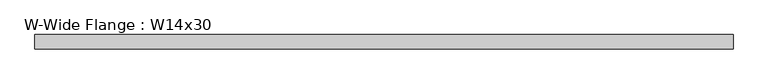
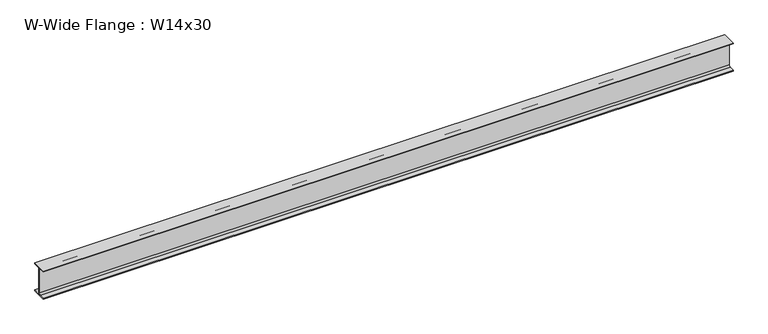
"""IFC4 building model written with IfcOpenShell, lengths in millimetres: beam geometry, W-Wide Flange : W14x30."""

from ifc_helpers import new_model, si_unit, point, frame, frame_2d, origin, place, context, project, spatial, polyline, circle_curve, trimmed, segment, composite_curve, outline, extrude, source, transform, mapped, element, save


def w_wide_flange_w14x30_946aa045(model_context):
    return source(origin(), model_context, "Body", "SweptSolid", [
        extrude(outline(composite_curve([segment(polyline([(85.471, -165.481), (85.471, -175.26), (-85.471, -175.26), (-85.471, -165.481), (-22.225, -165.481)]), True, "CONTINUOUS"), segment(trimmed(circle_curve(frame_2d((-22.225, -146.685)), 18.796), [point((-22.225, -165.481))], [point((-3.429, -146.685))], True, "CARTESIAN"), True, "CONTINUOUS"), segment(polyline([(-3.429, -146.685), (-3.429, 146.685)]), True, "CONTINUOUS"), segment(trimmed(circle_curve(frame_2d((-22.225, 146.685)), 18.796), [point((-3.429, 146.685))], [point((-22.225, 165.481))], True, "CARTESIAN"), True, "CONTINUOUS"), segment(polyline([(-22.225, 165.481), (-85.471, 165.481), (-85.471, 175.26), (85.471, 175.26), (85.471, 165.481), (22.225, 165.481)]), True, "CONTINUOUS"), segment(trimmed(circle_curve(frame_2d((22.225, 146.685)), 18.796), [point((22.225, 165.481))], [point((3.429, 146.685))], True, "CARTESIAN"), True, "CONTINUOUS"), segment(polyline([(3.429, 146.685), (3.429, -146.685)]), True, "CONTINUOUS"), segment(trimmed(circle_curve(frame_2d((22.225, -146.685)), 18.796), [point((3.429, -146.685))], [point((22.225, -165.481))], True, "CARTESIAN"), True, "CONTINUOUS"), segment(polyline([(22.225, -165.481), (85.471, -165.481)]), True, "CONTINUOUS")], self_intersect=False)), frame((-4148.455, 0.0, 0.0), z_axis=(1.0, 0.0, 0.0), x_axis=(0.0, 1.0, 0.0)), (0.0, 0.0, 1.0), 8201.66),
    ])


if __name__ == "__main__":
    model = new_model("IFC4")
    model_context = context("Model", 3, world=origin())
    ifc_project = project(units=[si_unit("LENGTHUNIT", "METRE", prefix="MILLI")], contexts=[model_context])
    site = spatial("IfcSite", under=ifc_project)
    building = spatial("IfcBuilding", under=site)
    placement = place(None, origin())
    w_wide_flange_w14x30_shape = w_wide_flange_w14x30_946aa045(model_context)
    element("IfcBeam", 1, ObjectType="W-Wide Flange : W14x30", at=placement, inside=building, context=model_context, shape_type="MappedRepresentation", body=[
        mapped(w_wide_flange_w14x30_shape, transform((0.0, 0.0, 0.0), x_axis=(1.0, 0.0, 0.0), y_axis=(0.0, 1.0, 0.0), z_axis=(0.0, 0.0, 1.0))),
    ])
    save(model, "model.ifc")
